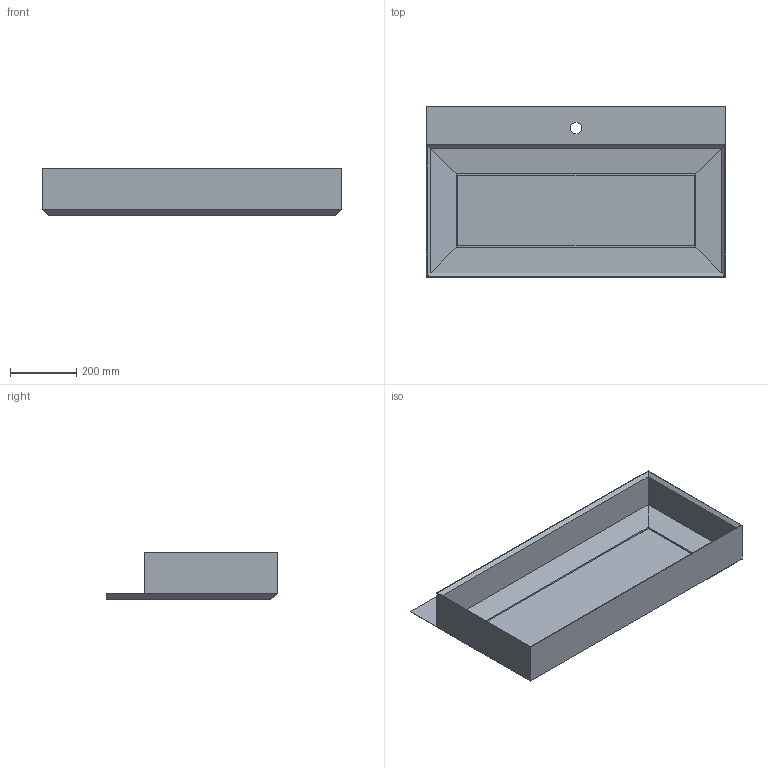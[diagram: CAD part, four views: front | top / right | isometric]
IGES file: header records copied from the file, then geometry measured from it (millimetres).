
Start section: Data from Parasolid IGES Translator 19.0.9, Copyright(c) 2006 Siemens PL M Software. All Rights Reserved.
Global section: file name: noorth-top-H 1,9 D 51,3 W 90_4652.igs; native system: By Siemens PLM Incorporated; preprocessor: XPlus GENERIC/IGES 19.0.9; author: Noname; organization: Noname; date: 20200603.115715; units: metre
Bounding box: 900 x 513 x 144 mm (x, y, z)
Volume: 14564788.3 mm3; surface area: 2274488.8 mm2
Topology: 2 solids, 2 shells, 43 faces, 107 edges, 66 vertices
Faces by surface type: plane 42, cylinder 1
Full cylindrical faces by diameter (mm): 34.9 x1
